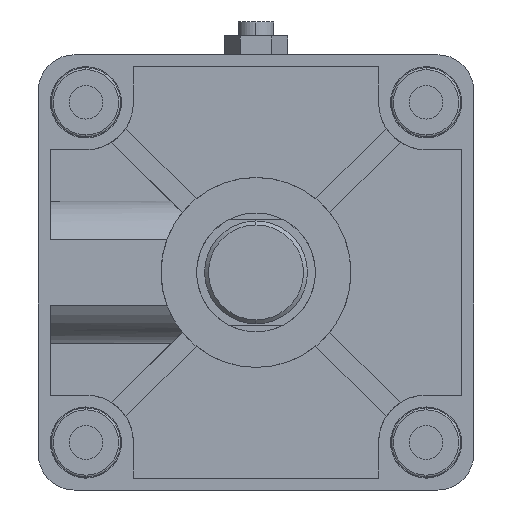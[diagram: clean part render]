
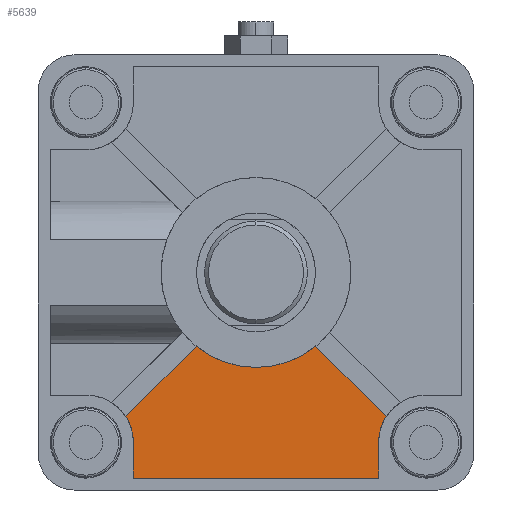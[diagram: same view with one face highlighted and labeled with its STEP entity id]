
A CAD part, left-side view. The second image highlights one B-rep face of the part: STEP entity #5639.
In plain terms, the highlighted planar face has unit normal (-1, 0, 0) as drawn and (1, 0, 0) by its records, which use the part's own axes.
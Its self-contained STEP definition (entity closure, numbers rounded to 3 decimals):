
#58 = CIRCLE ( 'NONE', #3964, 12. ) ;
#210 = DIRECTION ( 'NONE',  ( 0., -1., 0. ) ) ;
#229 = PLANE ( 'NONE',  #2576 ) ;
#247 = VECTOR ( 'NONE', #1702, 1000. ) ;
#274 = CARTESIAN_POINT ( 'NONE',  ( -3., 31., 0. ) ) ;
#390 = CARTESIAN_POINT ( 'NONE',  ( -3., -15.11, 18.646 ) ) ;
#566 = LINE ( 'NONE', #274, #2840 ) ;
#586 = CARTESIAN_POINT ( 'NONE',  ( -3., 31., 43. ) ) ;
#596 = CARTESIAN_POINT ( 'NONE',  ( -3., -1.768, 1.768 ) ) ;
#688 = EDGE_CURVE ( 'NONE', #7274, #3202, #1549, .T. ) ;
#1134 = DIRECTION ( 'NONE',  ( -1., 0., 0. ) ) ;
#1138 = VERTEX_POINT ( 'NONE', #8627 ) ;
#1209 = ORIENTED_EDGE ( 'NONE', *, *, #688, .T. ) ;
#1304 = CARTESIAN_POINT ( 'NONE',  ( -3., -43., 43. ) ) ;
#1410 = EDGE_CURVE ( 'NONE', #1852, #7816, #5051, .T. ) ;
#1418 = AXIS2_PLACEMENT_3D ( 'NONE', #2893, #7848, #8538 ) ;
#1488 = CARTESIAN_POINT ( 'NONE',  ( -3., 0., 24. ) ) ;
#1549 = CIRCLE ( 'NONE', #8209, 24. ) ;
#1648 = CARTESIAN_POINT ( 'NONE',  ( -3., -31., 43. ) ) ;
#1702 = DIRECTION ( 'NONE',  ( 0., -0.707, 0.707 ) ) ;
#1852 = VERTEX_POINT ( 'NONE', #1648 ) ;
#1865 = DIRECTION ( 'NONE',  ( 1., 0., 0. ) ) ;
#2210 = ORIENTED_EDGE ( 'NONE', *, *, #4029, .F. ) ;
#2273 = DIRECTION ( 'NONE',  ( 0., 0., -1. ) ) ;
#2363 = DIRECTION ( 'NONE',  ( 0., 0., -1. ) ) ;
#2445 = EDGE_CURVE ( 'NONE', #8247, #1852, #58, .T. ) ;
#2576 = AXIS2_PLACEMENT_3D ( 'NONE', #5737, #6167, #2363 ) ;
#2647 = CARTESIAN_POINT ( 'NONE',  ( -3., 0., 52. ) ) ;
#2705 = DIRECTION ( 'NONE',  ( 0., 0., 1. ) ) ;
#2765 = EDGE_LOOP ( 'NONE', ( #7665, #1209, #3685, #2210, #4114, #5036, #8165, #6440, #7012 ) ) ;
#2810 = EDGE_CURVE ( 'NONE', #7693, #5592, #566, .T. ) ;
#2840 = VECTOR ( 'NONE', #2705, 1000. ) ;
#2893 = CARTESIAN_POINT ( 'NONE',  ( -3., 43., 43. ) ) ;
#2938 = EDGE_CURVE ( 'NONE', #1138, #7693, #5483, .T. ) ;
#2994 = DIRECTION ( 'NONE',  ( 0., 0., -1. ) ) ;
#3202 = VERTEX_POINT ( 'NONE', #1488 ) ;
#3251 = CARTESIAN_POINT ( 'NONE',  ( -3., 1.768, 1.768 ) ) ;
#3500 = VECTOR ( 'NONE', #8306, 1000. ) ;
#3678 = LINE ( 'NONE', #3251, #247 ) ;
#3685 = ORIENTED_EDGE ( 'NONE', *, *, #3979, .T. ) ;
#3964 = AXIS2_PLACEMENT_3D ( 'NONE', #1304, #1865, #8526 ) ;
#3979 = EDGE_CURVE ( 'NONE', #3202, #4382, #8339, .T. ) ;
#3980 = LINE ( 'NONE', #596, #6488 ) ;
#4029 = EDGE_CURVE ( 'NONE', #1138, #4382, #3980, .T. ) ;
#4045 = LINE ( 'NONE', #2647, #4469 ) ;
#4114 = ORIENTED_EDGE ( 'NONE', *, *, #2938, .T. ) ;
#4125 = CARTESIAN_POINT ( 'NONE',  ( -3., -31., 52. ) ) ;
#4342 = CARTESIAN_POINT ( 'NONE',  ( -3., -31., 0. ) ) ;
#4382 = VERTEX_POINT ( 'NONE', #4464 ) ;
#4464 = CARTESIAN_POINT ( 'NONE',  ( -3., 15.11, 18.646 ) ) ;
#4469 = VECTOR ( 'NONE', #210, 1000. ) ;
#4571 = EDGE_CURVE ( 'NONE', #5592, #7816, #4045, .T. ) ;
#5036 = ORIENTED_EDGE ( 'NONE', *, *, #2810, .T. ) ;
#5051 = LINE ( 'NONE', #4342, #3500 ) ;
#5106 = CARTESIAN_POINT ( 'NONE',  ( -3., 0., 0. ) ) ;
#5483 = CIRCLE ( 'NONE', #1418, 12. ) ;
#5592 = VERTEX_POINT ( 'NONE', #5628 ) ;
#5628 = CARTESIAN_POINT ( 'NONE',  ( -3., 31., 52. ) ) ;
#5639 = ADVANCED_FACE ( 'NONE', ( #7601 ), #229, .T. ) ;
#5737 = CARTESIAN_POINT ( 'NONE',  ( -3., 0., 0. ) ) ;
#6073 = CARTESIAN_POINT ( 'NONE',  ( -3., -32.933, 36.469 ) ) ;
#6167 = DIRECTION ( 'NONE',  ( 1., 0., 0. ) ) ;
#6329 = EDGE_CURVE ( 'NONE', #7274, #8247, #3678, .T. ) ;
#6440 = ORIENTED_EDGE ( 'NONE', *, *, #1410, .F. ) ;
#6488 = VECTOR ( 'NONE', #7822, 1000. ) ;
#6945 = DIRECTION ( 'NONE',  ( -1., 0., 0. ) ) ;
#7012 = ORIENTED_EDGE ( 'NONE', *, *, #2445, .F. ) ;
#7090 = CARTESIAN_POINT ( 'NONE',  ( -3., 0., 0. ) ) ;
#7274 = VERTEX_POINT ( 'NONE', #390 ) ;
#7601 = FACE_OUTER_BOUND ( 'NONE', #2765, .T. ) ;
#7665 = ORIENTED_EDGE ( 'NONE', *, *, #6329, .F. ) ;
#7693 = VERTEX_POINT ( 'NONE', #586 ) ;
#7816 = VERTEX_POINT ( 'NONE', #4125 ) ;
#7822 = DIRECTION ( 'NONE',  ( 0., -0.707, -0.707 ) ) ;
#7848 = DIRECTION ( 'NONE',  ( -1., 0., 0. ) ) ;
#7965 = AXIS2_PLACEMENT_3D ( 'NONE', #7090, #1134, #2273 ) ;
#8165 = ORIENTED_EDGE ( 'NONE', *, *, #4571, .T. ) ;
#8209 = AXIS2_PLACEMENT_3D ( 'NONE', #5106, #6945, #2994 ) ;
#8247 = VERTEX_POINT ( 'NONE', #6073 ) ;
#8306 = DIRECTION ( 'NONE',  ( 0., 0., 1. ) ) ;
#8339 = CIRCLE ( 'NONE', #7965, 24. ) ;
#8526 = DIRECTION ( 'NONE',  ( 0., 0., -1. ) ) ;
#8538 = DIRECTION ( 'NONE',  ( 0., 0., -1. ) ) ;
#8627 = CARTESIAN_POINT ( 'NONE',  ( -3., 32.933, 36.469 ) ) ;
